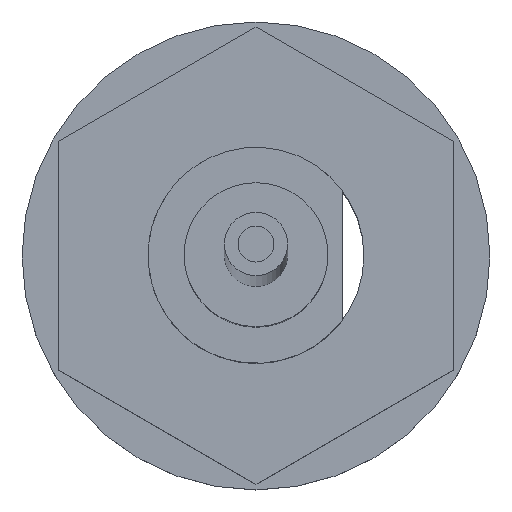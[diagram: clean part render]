
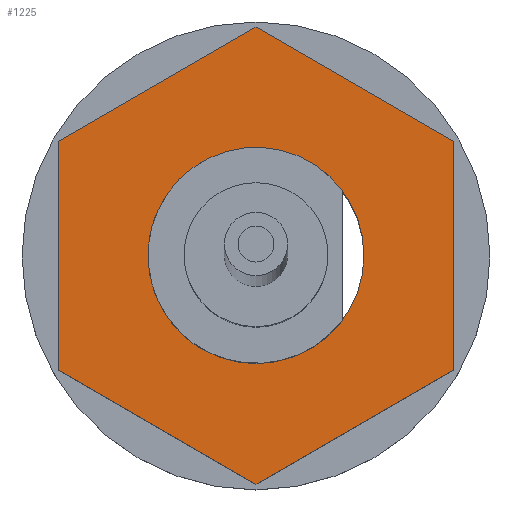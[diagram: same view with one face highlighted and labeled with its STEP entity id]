
A CAD part, top view. The second image highlights one B-rep face of the part: STEP entity #1225.
In plain terms, the highlighted planar face has unit normal (0, 0, 1) as drawn and (-1, 0, 0) by its records, which use the part's own axes.
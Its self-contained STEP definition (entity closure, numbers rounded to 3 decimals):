
#1 = ORIENTED_EDGE ( 'NONE', *, *, #8, .T. ) ;
#2 = VERTEX_POINT ( 'NONE', #67 ) ;
#3 = EDGE_CURVE ( 'NONE', #4, #2, #69, .T. ) ;
#4 = VERTEX_POINT ( 'NONE', #65 ) ;
#5 = ORIENTED_EDGE ( 'NONE', *, *, #3, .T. ) ;
#6 = ORIENTED_EDGE ( 'NONE', *, *, #7, .T. ) ;
#7 = EDGE_CURVE ( 'NONE', #18, #4, #64, .T. ) ;
#8 = EDGE_CURVE ( 'NONE', #2, #9, #59, .T. ) ;
#9 = VERTEX_POINT ( 'NONE', #450 ) ;
#10 = ORIENTED_EDGE ( 'NONE', *, *, #35, .T. ) ;
#11 = EDGE_LOOP ( 'NONE', ( #42, #43 ) ) ;
#15 = EDGE_CURVE ( 'NONE', #16, #17, #449, .T. ) ;
#16 = VERTEX_POINT ( 'NONE', #444 ) ;
#17 = VERTEX_POINT ( 'NONE', #443 ) ;
#18 = VERTEX_POINT ( 'NONE', #442 ) ;
#19 = EDGE_CURVE ( 'NONE', #21, #18, #441, .T. ) ;
#20 = VERTEX_POINT ( 'NONE', #437 ) ;
#21 = VERTEX_POINT ( 'NONE', #436 ) ;
#22 = ORIENTED_EDGE ( 'NONE', *, *, #19, .T. ) ;
#25 = EDGE_CURVE ( 'NONE', #20, #21, #434, .T. ) ;
#35 = EDGE_CURVE ( 'NONE', #9, #20, #477, .T. ) ;
#42 = ORIENTED_EDGE ( 'NONE', *, *, #15, .F. ) ;
#43 = ORIENTED_EDGE ( 'NONE', *, *, #44, .F. ) ;
#44 = EDGE_CURVE ( 'NONE', #17, #16, #473, .T. ) ;
#58 = DIRECTION ( 'NONE',  ( 0., -0.5, 0.866 ) ) ;
#59 = LINE ( 'NONE', #70, #72 ) ;
#61 = DIRECTION ( 'NONE',  ( 0., -1., 0. ) ) ;
#62 = VECTOR ( 'NONE', #61, 1000. ) ;
#63 = CARTESIAN_POINT ( 'NONE',  ( 92.5, 1.588, -2.75 ) ) ;
#64 = LINE ( 'NONE', #63, #62 ) ;
#65 = CARTESIAN_POINT ( 'NONE',  ( 92.5, -1.588, -2.75 ) ) ;
#66 = CARTESIAN_POINT ( 'NONE',  ( 92.5, -1.588, -2.75 ) ) ;
#67 = CARTESIAN_POINT ( 'NONE',  ( 92.5, -3.175, 0. ) ) ;
#68 = VECTOR ( 'NONE', #58, 1000. ) ;
#69 = LINE ( 'NONE', #66, #68 ) ;
#70 = CARTESIAN_POINT ( 'NONE',  ( 92.5, -3.175, 0. ) ) ;
#71 = DIRECTION ( 'NONE',  ( 0., 0.5, 0.866 ) ) ;
#72 = VECTOR ( 'NONE', #71, 1000. ) ;
#431 = DIRECTION ( 'NONE',  ( 0., 0.5, -0.866 ) ) ;
#432 = VECTOR ( 'NONE', #431, 1000. ) ;
#433 = CARTESIAN_POINT ( 'NONE',  ( 92.5, 1.588, 2.75 ) ) ;
#434 = LINE ( 'NONE', #433, #432 ) ;
#436 = CARTESIAN_POINT ( 'NONE',  ( 92.5, 3.175, 0. ) ) ;
#437 = CARTESIAN_POINT ( 'NONE',  ( 92.5, 1.588, 2.75 ) ) ;
#438 = DIRECTION ( 'NONE',  ( 0., -0.5, -0.866 ) ) ;
#439 = VECTOR ( 'NONE', #438, 1000. ) ;
#440 = CARTESIAN_POINT ( 'NONE',  ( 92.5, 3.175, 0. ) ) ;
#441 = LINE ( 'NONE', #440, #439 ) ;
#442 = CARTESIAN_POINT ( 'NONE',  ( 92.5, 1.588, -2.75 ) ) ;
#443 = CARTESIAN_POINT ( 'NONE',  ( 92.5, -1.5, 0. ) ) ;
#444 = CARTESIAN_POINT ( 'NONE',  ( 92.5, 1.5, 0. ) ) ;
#445 = DIRECTION ( 'NONE',  ( 0., -1., 0. ) ) ;
#446 = DIRECTION ( 'NONE',  ( -1., 0., 0. ) ) ;
#447 = CARTESIAN_POINT ( 'NONE',  ( 92.5, 0., 0. ) ) ;
#448 = AXIS2_PLACEMENT_3D ( 'NONE', #447, #446, #445 ) ;
#449 = CIRCLE ( 'NONE', #448, 1.5 ) ;
#450 = CARTESIAN_POINT ( 'NONE',  ( 92.5, -1.588, 2.75 ) ) ;
#469 = DIRECTION ( 'NONE',  ( 0., -1., 0. ) ) ;
#470 = DIRECTION ( 'NONE',  ( -1., 0., 0. ) ) ;
#471 = CARTESIAN_POINT ( 'NONE',  ( 92.5, 0., 0. ) ) ;
#472 = AXIS2_PLACEMENT_3D ( 'NONE', #471, #470, #469 ) ;
#473 = CIRCLE ( 'NONE', #472, 1.5 ) ;
#474 = DIRECTION ( 'NONE',  ( 0., 1., 0. ) ) ;
#475 = VECTOR ( 'NONE', #474, 1000. ) ;
#476 = CARTESIAN_POINT ( 'NONE',  ( 92.5, -1.588, 2.75 ) ) ;
#477 = LINE ( 'NONE', #476, #475 ) ;
#1079 = DIRECTION ( 'NONE',  ( 0., 1., 0. ) ) ;
#1080 = DIRECTION ( 'NONE',  ( 1., 0., 0. ) ) ;
#1081 = CARTESIAN_POINT ( 'NONE',  ( 92.5, 0., 5.5 ) ) ;
#1082 = AXIS2_PLACEMENT_3D ( 'NONE', #1081, #1080, #1079 ) ;
#1083 = PLANE ( 'NONE',  #1082 ) ;
#1084 = FACE_BOUND ( 'NONE', #11, .T. ) ;
#1089 = FACE_OUTER_BOUND ( 'NONE', #1229, .T. ) ;
#1217 = ORIENTED_EDGE ( 'NONE', *, *, #25, .T. ) ;
#1225 = ADVANCED_FACE ( 'NONE', ( #1089, #1084 ), #1083, .F. ) ;
#1229 = EDGE_LOOP ( 'NONE', ( #1217, #22, #6, #5, #1, #10 ) ) ;
